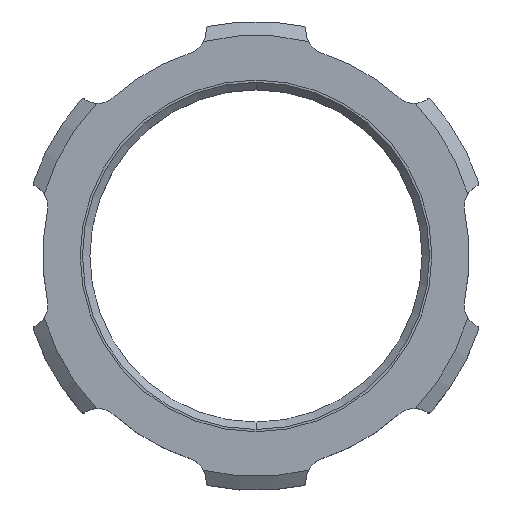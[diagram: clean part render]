
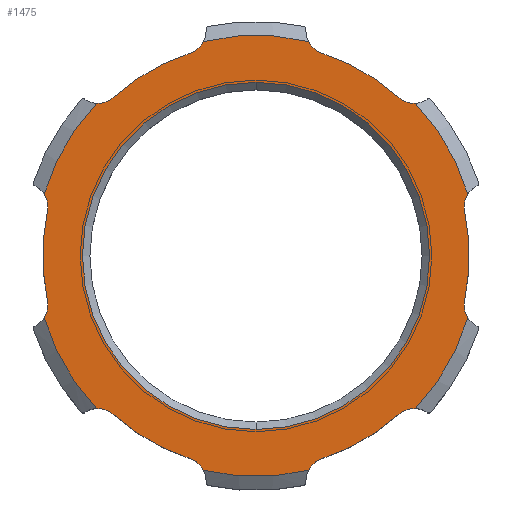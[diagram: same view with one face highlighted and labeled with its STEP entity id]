
A CAD part, top view. The second image highlights one B-rep face of the part: STEP entity #1475.
In plain terms, the highlighted planar face has unit normal (0, 0, 1).
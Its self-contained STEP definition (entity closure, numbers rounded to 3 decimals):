
#118=CARTESIAN_POINT('',(0.,0.,5.45));
#119=DIRECTION('',(0.,0.,-1.));
#120=DIRECTION('',(0.,-1.,0.));
#121=AXIS2_PLACEMENT_3D('',#118,#119,#120);
#128=CARTESIAN_POINT('',(7.914,24.346,5.45));
#129=DIRECTION('',(0.,0.,-1.));
#130=DIRECTION('',(-0.309,-0.951,0.));
#131=AXIS2_PLACEMENT_3D('',#128,#129,#130);
#133=CARTESIAN_POINT('',(0.,0.,5.45));
#134=DIRECTION('',(0.,0.,-1.));
#135=DIRECTION('',(0.309,0.951,0.));
#136=AXIS2_PLACEMENT_3D('',#133,#134,#135);
#138=CARTESIAN_POINT('',(17.127,19.027,5.45));
#139=DIRECTION('',(0.,0.,-1.));
#140=DIRECTION('',(0.054,-0.999,0.));
#141=AXIS2_PLACEMENT_3D('',#138,#139,#140);
#143=CARTESIAN_POINT('',(25.041,5.319,5.45));
#144=DIRECTION('',(0.,0.,-1.));
#145=DIRECTION('',(-0.978,-0.208,0.));
#146=AXIS2_PLACEMENT_3D('',#143,#144,#145);
#148=CARTESIAN_POINT('',(0.,0.,5.45));
#149=DIRECTION('',(0.,0.,-1.));
#150=DIRECTION('',(0.978,0.208,0.));
#151=AXIS2_PLACEMENT_3D('',#148,#149,#150);
#153=CARTESIAN_POINT('',(25.041,-5.319,5.45));
#154=DIRECTION('',(0.,0.,-1.));
#155=DIRECTION('',(-0.838,-0.546,0.));
#156=AXIS2_PLACEMENT_3D('',#153,#154,#155);
#158=CARTESIAN_POINT('',(17.127,-19.027,5.45));
#159=DIRECTION('',(0.,0.,-1.));
#160=DIRECTION('',(-0.669,0.743,0.));
#161=AXIS2_PLACEMENT_3D('',#158,#159,#160);
#163=CARTESIAN_POINT('',(0.,0.,5.45));
#164=DIRECTION('',(0.,0.,-1.));
#165=DIRECTION('',(0.669,-0.743,0.));
#166=AXIS2_PLACEMENT_3D('',#163,#164,#165);
#168=CARTESIAN_POINT('',(7.914,-24.346,5.45));
#169=DIRECTION('',(0.,0.,-1.));
#170=DIRECTION('',(-0.892,0.453,0.));
#171=AXIS2_PLACEMENT_3D('',#168,#169,#170);
#173=CARTESIAN_POINT('',(-7.914,-24.346,5.45));
#174=DIRECTION('',(0.,0.,-1.));
#175=DIRECTION('',(0.309,0.951,0.));
#176=AXIS2_PLACEMENT_3D('',#173,#174,#175);
#178=CARTESIAN_POINT('',(0.,0.,5.45));
#179=DIRECTION('',(0.,0.,-1.));
#180=DIRECTION('',(-0.309,-0.951,0.));
#181=AXIS2_PLACEMENT_3D('',#178,#179,#180);
#183=CARTESIAN_POINT('',(-17.127,-19.027,5.45));
#184=DIRECTION('',(0.,0.,-1.));
#185=DIRECTION('',(-0.054,0.999,0.));
#186=AXIS2_PLACEMENT_3D('',#183,#184,#185);
#188=CARTESIAN_POINT('',(-25.041,-5.319,5.45));
#189=DIRECTION('',(0.,0.,-1.));
#190=DIRECTION('',(0.978,0.208,0.));
#191=AXIS2_PLACEMENT_3D('',#188,#189,#190);
#193=CARTESIAN_POINT('',(0.,0.,5.45));
#194=DIRECTION('',(0.,0.,-1.));
#195=DIRECTION('',(-0.978,-0.208,0.));
#196=AXIS2_PLACEMENT_3D('',#193,#194,#195);
#198=CARTESIAN_POINT('',(-25.041,5.319,5.45));
#199=DIRECTION('',(0.,0.,-1.));
#200=DIRECTION('',(0.838,0.546,0.));
#201=AXIS2_PLACEMENT_3D('',#198,#199,#200);
#203=CARTESIAN_POINT('',(-17.127,19.027,5.45));
#204=DIRECTION('',(0.,0.,-1.));
#205=DIRECTION('',(0.669,-0.743,0.));
#206=AXIS2_PLACEMENT_3D('',#203,#204,#205);
#208=CARTESIAN_POINT('',(0.,0.,5.45));
#209=DIRECTION('',(0.,0.,-1.));
#210=DIRECTION('',(-0.669,0.743,0.));
#211=AXIS2_PLACEMENT_3D('',#208,#209,#210);
#213=CARTESIAN_POINT('',(-7.914,24.346,5.45));
#214=DIRECTION('',(0.,0.,-1.));
#215=DIRECTION('',(0.892,-0.453,0.));
#216=AXIS2_PLACEMENT_3D('',#213,#214,#215);
#218=CARTESIAN_POINT('',(0.,0.,5.45));
#219=DIRECTION('',(0.,0.,1.));
#220=DIRECTION('',(0.,-1.,0.));
#221=AXIS2_PLACEMENT_3D('',#218,#219,#220);
#528=CARTESIAN_POINT('',(0.,0.,5.45));
#529=DIRECTION('',(0.,0.,1.));
#530=DIRECTION('',(-0.722,0.692,0.));
#531=AXIS2_PLACEMENT_3D('',#528,#529,#530);
#552=CARTESIAN_POINT('',(0.,0.,5.45));
#553=DIRECTION('',(0.,0.,1.));
#554=DIRECTION('',(-0.96,-0.28,0.));
#555=AXIS2_PLACEMENT_3D('',#552,#553,#554);
#576=CARTESIAN_POINT('',(0.,0.,5.45));
#577=DIRECTION('',(0.,0.,1.));
#578=DIRECTION('',(-0.238,-0.971,0.));
#579=AXIS2_PLACEMENT_3D('',#576,#577,#578);
#600=CARTESIAN_POINT('',(0.,0.,5.45));
#601=DIRECTION('',(0.,0.,1.));
#602=DIRECTION('',(0.722,-0.692,0.));
#603=AXIS2_PLACEMENT_3D('',#600,#601,#602);
#619=CARTESIAN_POINT('',(0.,0.,5.45));
#620=DIRECTION('',(0.,0.,1.));
#621=DIRECTION('',(0.238,0.971,0.));
#622=AXIS2_PLACEMENT_3D('',#619,#620,#621);
#648=CARTESIAN_POINT('',(0.,0.,5.45));
#649=DIRECTION('',(0.,0.,1.));
#650=DIRECTION('',(0.96,0.28,0.));
#651=AXIS2_PLACEMENT_3D('',#648,#649,#650);
#1062=CARTESIAN_POINT('',(0.,-18.8,5.45));
#1063=CARTESIAN_POINT('',(0.,18.8,5.45));
#1064=VERTEX_POINT('',#1062);
#1065=VERTEX_POINT('',#1063);
#1086=CARTESIAN_POINT('',(-15.455,17.169,5.45));
#1087=CARTESIAN_POINT('',(-17.262,16.53,5.45));
#1088=VERTEX_POINT('',#1086);
#1089=VERTEX_POINT('',#1087);
#1090=CARTESIAN_POINT('',(-5.685,23.214,5.45));
#1091=CARTESIAN_POINT('',(-7.141,21.969,5.45));
#1092=VERTEX_POINT('',#1090);
#1093=VERTEX_POINT('',#1091);
#1106=CARTESIAN_POINT('',(-22.596,-4.8,5.45));
#1107=CARTESIAN_POINT('',(-22.946,-6.684,5.45));
#1108=VERTEX_POINT('',#1106);
#1109=VERTEX_POINT('',#1107);
#1110=CARTESIAN_POINT('',(-22.946,6.684,5.45));
#1111=CARTESIAN_POINT('',(-22.596,4.8,5.45));
#1112=VERTEX_POINT('',#1110);
#1113=VERTEX_POINT('',#1111);
#1126=CARTESIAN_POINT('',(-7.141,-21.969,5.45));
#1127=CARTESIAN_POINT('',(-5.685,-23.214,5.45));
#1128=VERTEX_POINT('',#1126);
#1129=VERTEX_POINT('',#1127);
#1130=CARTESIAN_POINT('',(-17.262,-16.53,5.45));
#1131=CARTESIAN_POINT('',(-15.455,-17.169,5.45));
#1132=VERTEX_POINT('',#1130);
#1133=VERTEX_POINT('',#1131);
#1146=CARTESIAN_POINT('',(15.455,-17.169,5.45));
#1147=CARTESIAN_POINT('',(17.262,-16.53,5.45));
#1148=VERTEX_POINT('',#1146);
#1149=VERTEX_POINT('',#1147);
#1150=CARTESIAN_POINT('',(5.685,-23.214,5.45));
#1151=CARTESIAN_POINT('',(7.141,-21.969,5.45));
#1152=VERTEX_POINT('',#1150);
#1153=VERTEX_POINT('',#1151);
#1166=CARTESIAN_POINT('',(22.596,4.8,5.45));
#1167=CARTESIAN_POINT('',(22.946,6.684,5.45));
#1168=VERTEX_POINT('',#1166);
#1169=VERTEX_POINT('',#1167);
#1170=CARTESIAN_POINT('',(22.946,-6.684,5.45));
#1171=CARTESIAN_POINT('',(22.596,-4.8,5.45));
#1172=VERTEX_POINT('',#1170);
#1173=VERTEX_POINT('',#1171);
#1186=CARTESIAN_POINT('',(7.141,21.969,5.45));
#1187=CARTESIAN_POINT('',(5.685,23.214,5.45));
#1188=VERTEX_POINT('',#1186);
#1189=VERTEX_POINT('',#1187);
#1190=CARTESIAN_POINT('',(17.262,16.53,5.45));
#1191=CARTESIAN_POINT('',(15.455,17.169,5.45));
#1192=VERTEX_POINT('',#1190);
#1193=VERTEX_POINT('',#1191);
#1415=CARTESIAN_POINT('',(0.,0.,5.45));
#1416=DIRECTION('',(0.,0.,1.));
#1417=DIRECTION('',(0.,1.,0.));
#1418=AXIS2_PLACEMENT_3D('',#1415,#1416,#1417);
#1419=PLANE('',#1418);
#1421=ORIENTED_EDGE('',*,*,#1420,.F.);
#1423=ORIENTED_EDGE('',*,*,#1422,.T.);
#1425=ORIENTED_EDGE('',*,*,#1424,.F.);
#1427=ORIENTED_EDGE('',*,*,#1426,.F.);
#1429=ORIENTED_EDGE('',*,*,#1428,.F.);
#1431=ORIENTED_EDGE('',*,*,#1430,.T.);
#1433=ORIENTED_EDGE('',*,*,#1432,.F.);
#1435=ORIENTED_EDGE('',*,*,#1434,.F.);
#1437=ORIENTED_EDGE('',*,*,#1436,.F.);
#1439=ORIENTED_EDGE('',*,*,#1438,.T.);
#1441=ORIENTED_EDGE('',*,*,#1440,.F.);
#1443=ORIENTED_EDGE('',*,*,#1442,.F.);
#1445=ORIENTED_EDGE('',*,*,#1444,.F.);
#1447=ORIENTED_EDGE('',*,*,#1446,.T.);
#1449=ORIENTED_EDGE('',*,*,#1448,.F.);
#1451=ORIENTED_EDGE('',*,*,#1450,.F.);
#1453=ORIENTED_EDGE('',*,*,#1452,.F.);
#1455=ORIENTED_EDGE('',*,*,#1454,.T.);
#1457=ORIENTED_EDGE('',*,*,#1456,.F.);
#1459=ORIENTED_EDGE('',*,*,#1458,.F.);
#1461=ORIENTED_EDGE('',*,*,#1460,.F.);
#1463=ORIENTED_EDGE('',*,*,#1462,.T.);
#1465=ORIENTED_EDGE('',*,*,#1464,.F.);
#1467=ORIENTED_EDGE('',*,*,#1466,.F.);
#1468=EDGE_LOOP('',(#1421,#1423,#1425,#1427,#1429,#1431,#1433,#1435,#1437,#1439,
#1441,#1443,#1445,#1447,#1449,#1451,#1453,#1455,#1457,#1459,#1461,#1463,#1465,
#1467));
#1469=FACE_OUTER_BOUND('',#1468,.F.);
#1470=ORIENTED_EDGE('',*,*,#1405,.F.);
#1472=ORIENTED_EDGE('',*,*,#1471,.T.);
#1473=EDGE_LOOP('',(#1470,#1472));
#1474=FACE_BOUND('',#1473,.F.);
#122=CIRCLE('',#121,18.8);
#132=CIRCLE('',#131,2.5);
#137=CIRCLE('',#136,23.1);
#142=CIRCLE('',#141,2.5);
#147=CIRCLE('',#146,2.5);
#152=CIRCLE('',#151,23.1);
#157=CIRCLE('',#156,2.5);
#162=CIRCLE('',#161,2.5);
#167=CIRCLE('',#166,23.1);
#172=CIRCLE('',#171,2.5);
#177=CIRCLE('',#176,2.5);
#182=CIRCLE('',#181,23.1);
#187=CIRCLE('',#186,2.5);
#192=CIRCLE('',#191,2.5);
#197=CIRCLE('',#196,23.1);
#202=CIRCLE('',#201,2.5);
#207=CIRCLE('',#206,2.5);
#212=CIRCLE('',#211,23.1);
#217=CIRCLE('',#216,2.5);
#222=CIRCLE('',#221,18.8);
#532=CIRCLE('',#531,23.9);
#556=CIRCLE('',#555,23.9);
#580=CIRCLE('',#579,23.9);
#604=CIRCLE('',#603,23.9);
#623=CIRCLE('',#622,23.9);
#652=CIRCLE('',#651,23.9);
#1405=EDGE_CURVE('',#1064,#1065,#122,.T.);
#1420=EDGE_CURVE('',#1188,#1189,#132,.T.);
#1422=EDGE_CURVE('',#1188,#1193,#137,.T.);
#1424=EDGE_CURVE('',#1192,#1193,#142,.T.);
#1426=EDGE_CURVE('',#1169,#1192,#652,.T.);
#1428=EDGE_CURVE('',#1168,#1169,#147,.T.);
#1430=EDGE_CURVE('',#1168,#1173,#152,.T.);
#1432=EDGE_CURVE('',#1172,#1173,#157,.T.);
#1434=EDGE_CURVE('',#1149,#1172,#604,.T.);
#1436=EDGE_CURVE('',#1148,#1149,#162,.T.);
#1438=EDGE_CURVE('',#1148,#1153,#167,.T.);
#1440=EDGE_CURVE('',#1152,#1153,#172,.T.);
#1442=EDGE_CURVE('',#1129,#1152,#580,.T.);
#1444=EDGE_CURVE('',#1128,#1129,#177,.T.);
#1446=EDGE_CURVE('',#1128,#1133,#182,.T.);
#1448=EDGE_CURVE('',#1132,#1133,#187,.T.);
#1450=EDGE_CURVE('',#1109,#1132,#556,.T.);
#1452=EDGE_CURVE('',#1108,#1109,#192,.T.);
#1454=EDGE_CURVE('',#1108,#1113,#197,.T.);
#1456=EDGE_CURVE('',#1112,#1113,#202,.T.);
#1458=EDGE_CURVE('',#1089,#1112,#532,.T.);
#1460=EDGE_CURVE('',#1088,#1089,#207,.T.);
#1462=EDGE_CURVE('',#1088,#1093,#212,.T.);
#1464=EDGE_CURVE('',#1092,#1093,#217,.T.);
#1466=EDGE_CURVE('',#1189,#1092,#623,.T.);
#1471=EDGE_CURVE('',#1064,#1065,#222,.T.);
#1475=ADVANCED_FACE('',(#1469,#1474),#1419,.T.);
